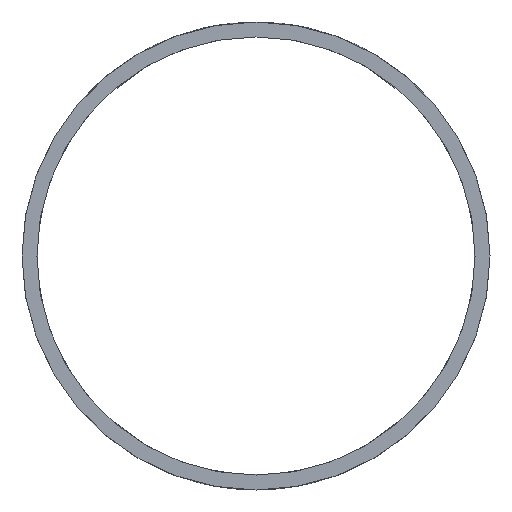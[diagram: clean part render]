
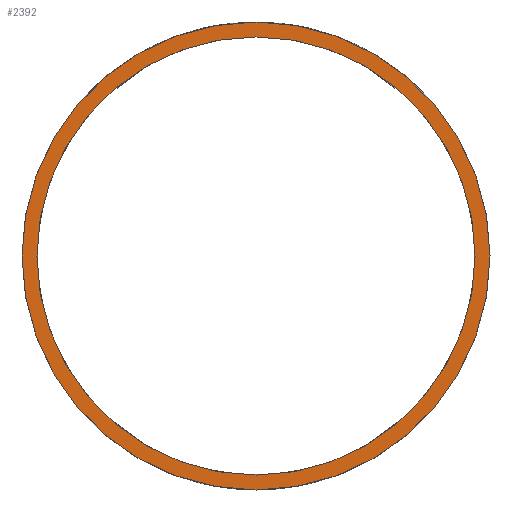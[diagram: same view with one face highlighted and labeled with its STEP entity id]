
A CAD part, left-side view. The second image highlights one B-rep face of the part: STEP entity #2392.
In plain terms, the highlighted planar face has unit normal (-1, 0, 0).
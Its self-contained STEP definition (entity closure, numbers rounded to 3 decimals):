
#22 = VERTEX_POINT('',#23);
#23 = CARTESIAN_POINT('',(28.,0.,18.75));
#32 = CYLINDRICAL_SURFACE('',#33,18.75);
#33 = AXIS2_PLACEMENT_3D('',#34,#35,#36);
#34 = CARTESIAN_POINT('',(28.,0.,0.));
#35 = DIRECTION('',(1.,0.,0.));
#36 = DIRECTION('',(-0.,0.,1.));
#318 = EDGE_CURVE('',#22,#22,#319,.T.);
#319 = SURFACE_CURVE('',#320,(#325,#332),.PCURVE_S1.);
#320 = CIRCLE('',#321,18.75);
#321 = AXIS2_PLACEMENT_3D('',#322,#323,#324);
#322 = CARTESIAN_POINT('',(28.,0.,0.));
#323 = DIRECTION('',(1.,0.,0.));
#324 = DIRECTION('',(-0.,0.,1.));
#325 = PCURVE('',#32,#326);
#326 = DEFINITIONAL_REPRESENTATION('',(#327),#331);
#327 = LINE('',#328,#329);
#328 = CARTESIAN_POINT('',(0.,0.));
#329 = VECTOR('',#330,1.);
#330 = DIRECTION('',(1.,0.));
#331 = ( GEOMETRIC_REPRESENTATION_CONTEXT(2) 
PARAMETRIC_REPRESENTATION_CONTEXT() REPRESENTATION_CONTEXT('2D SPACE',''
  ) );
#332 = PCURVE('',#333,#338);
#333 = PLANE('',#334);
#334 = AXIS2_PLACEMENT_3D('',#335,#336,#337);
#335 = CARTESIAN_POINT('',(28.,0.,0.));
#336 = DIRECTION('',(1.,0.,0.));
#337 = DIRECTION('',(-0.,0.,1.));
#338 = DEFINITIONAL_REPRESENTATION('',(#339),#343);
#339 = CIRCLE('',#340,18.75);
#340 = AXIS2_PLACEMENT_2D('',#341,#342);
#341 = CARTESIAN_POINT('',(0.,0.));
#342 = DIRECTION('',(1.,0.));
#343 = ( GEOMETRIC_REPRESENTATION_CONTEXT(2) 
PARAMETRIC_REPRESENTATION_CONTEXT() REPRESENTATION_CONTEXT('2D SPACE',''
  ) );
#367 = CYLINDRICAL_SURFACE('',#368,17.55);
#368 = AXIS2_PLACEMENT_3D('',#369,#370,#371);
#369 = CARTESIAN_POINT('',(27.,0.,0.));
#370 = DIRECTION('',(1.,0.,0.));
#371 = DIRECTION('',(-0.,0.,1.));
#1071 = VERTEX_POINT('',#1072);
#1072 = CARTESIAN_POINT('',(28.,0.,17.55));
#1365 = EDGE_CURVE('',#1071,#1071,#1366,.T.);
#1366 = SURFACE_CURVE('',#1367,(#1372,#1379),.PCURVE_S1.);
#1367 = CIRCLE('',#1368,17.55);
#1368 = AXIS2_PLACEMENT_3D('',#1369,#1370,#1371);
#1369 = CARTESIAN_POINT('',(28.,0.,0.));
#1370 = DIRECTION('',(1.,0.,0.));
#1371 = DIRECTION('',(-0.,0.,1.));
#1372 = PCURVE('',#367,#1373);
#1373 = DEFINITIONAL_REPRESENTATION('',(#1374),#1378);
#1374 = LINE('',#1375,#1376);
#1375 = CARTESIAN_POINT('',(0.,1.));
#1376 = VECTOR('',#1377,1.);
#1377 = DIRECTION('',(1.,0.));
#1378 = ( GEOMETRIC_REPRESENTATION_CONTEXT(2) 
PARAMETRIC_REPRESENTATION_CONTEXT() REPRESENTATION_CONTEXT('2D SPACE',''
  ) );
#1379 = PCURVE('',#333,#1380);
#1380 = DEFINITIONAL_REPRESENTATION('',(#1381),#1385);
#1381 = CIRCLE('',#1382,17.55);
#1382 = AXIS2_PLACEMENT_2D('',#1383,#1384);
#1383 = CARTESIAN_POINT('',(0.,0.));
#1384 = DIRECTION('',(1.,0.));
#1385 = ( GEOMETRIC_REPRESENTATION_CONTEXT(2) 
PARAMETRIC_REPRESENTATION_CONTEXT() REPRESENTATION_CONTEXT('2D SPACE',''
  ) );
#2392 = ADVANCED_FACE('',(#2393,#2396),#333,.F.);
#2393 = FACE_BOUND('',#2394,.F.);
#2394 = EDGE_LOOP('',(#2395));
#2395 = ORIENTED_EDGE('',*,*,#318,.T.);
#2396 = FACE_BOUND('',#2397,.F.);
#2397 = EDGE_LOOP('',(#2398));
#2398 = ORIENTED_EDGE('',*,*,#1365,.F.);
